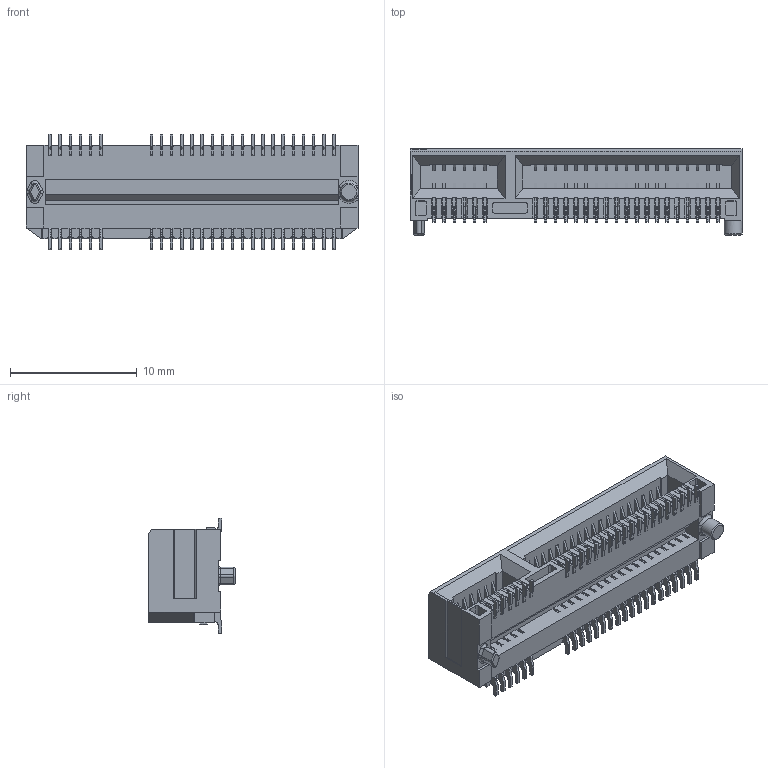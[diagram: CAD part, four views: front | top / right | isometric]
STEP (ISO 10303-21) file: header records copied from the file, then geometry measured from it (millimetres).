
FILE_DESCRIPTION (( 'STEP AP214' ), '1' );
FILE_NAME ('8208-2X25C10DR2PN1T.STEP', '2020-05-12T07:13:38', ( '' ), ( '' ), 'SwSTEP 2.0', 'SolidWorks 2011', '' );
FILE_SCHEMA (( 'AUTOMOTIVE_DESIGN' ));
Length unit declared in the file: millimetre
Products named in the file (1): 8208-2X25C10DR2PN1T
Bounding box: 26.2 x 6.83 x 9.1 mm (x, y, z)
Volume: 670.2 mm3; surface area: 1712.9 mm2
Topology: 1 solids, 3 shells, 3393 faces, 10114 edges, 6677 vertices
Faces by surface type: plane 2486, cylinder 893, bspline 9, cone 5
Full cylindrical faces by diameter (mm): 1.4 x1
Entity records: 148462 total; most frequent: CARTESIAN_POINT 20437, ORIENTED_EDGE 20218, DIRECTION 18656, EDGE_CURVE 10109, VECTOR 8298, LINE 8298, VERTEX_POINT 6676, AXIS2_PLACEMENT_3D 5179
